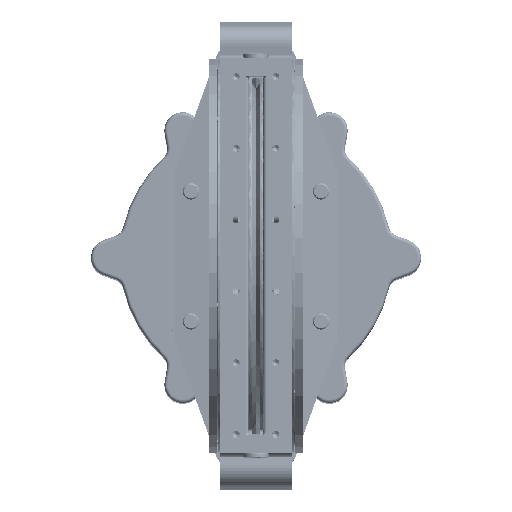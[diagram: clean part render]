
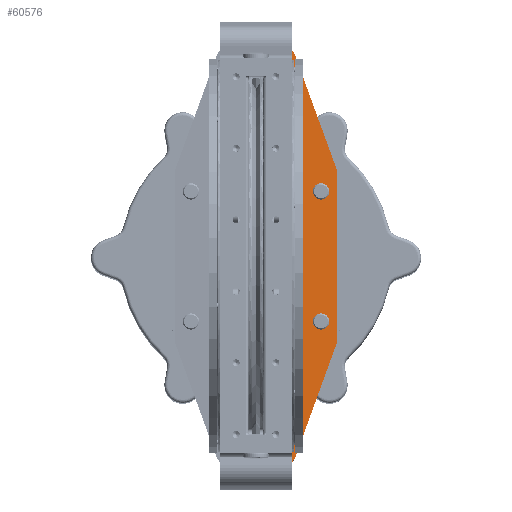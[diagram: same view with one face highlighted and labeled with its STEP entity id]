
A CAD part, top view. The second image highlights one B-rep face of the part: STEP entity #60576.
In plain terms, the highlighted planar face has unit normal (0.07, 0, 0.998).
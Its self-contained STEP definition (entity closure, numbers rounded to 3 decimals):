
#154=ELLIPSE('',#66782,48.117,48.);
#155=ELLIPSE('',#66784,48.117,48.);
#156=ELLIPSE('',#66785,25.061,25.);
#157=ELLIPSE('',#66786,25.061,25.);
#158=ELLIPSE('',#66787,25.061,25.);
#159=ELLIPSE('',#66788,25.061,25.);
#160=ELLIPSE('',#66789,10.024,10.);
#161=ELLIPSE('',#66790,10.024,10.);
#162=ELLIPSE('',#66791,10.024,10.);
#163=ELLIPSE('',#66792,10.024,10.);
#1478=B_SPLINE_CURVE_WITH_KNOTS('',3,(#149868,#149869,#149870,#149871,#149872,
#149873),.UNSPECIFIED.,.F.,.F.,(4,2,4),(27.716,27.741,
27.771),.UNSPECIFIED.);
#1480=B_SPLINE_CURVE_WITH_KNOTS('',3,(#150177,#150178,#150179,#150180,#150181,
#150182),.UNSPECIFIED.,.F.,.F.,(4,2,4),(-11.533,-11.508,
-11.478),.UNSPECIFIED.);
#3088=FACE_BOUND('',#10815,.T.);
#3089=FACE_BOUND('',#10816,.T.);
#4122=PLANE('',#66783);
#7027=FACE_OUTER_BOUND('',#10814,.T.);
#10814=EDGE_LOOP('',(#48625,#48626,#48627,#48628,#48629,#48630,#48631,#48632,
#48633,#48634,#48635,#48636,#48637,#48638));
#10815=EDGE_LOOP('',(#48639,#48640));
#10816=EDGE_LOOP('',(#48641,#48642));
#14261=LINE('',#146405,#17435);
#14291=LINE('',#150185,#17465);
#14292=LINE('',#150189,#17466);
#14293=LINE('',#150193,#17467);
#14294=LINE('',#150197,#17468);
#14295=LINE('',#150200,#17469);
#17435=VECTOR('',#80941,1.);
#17465=VECTOR('',#81099,1.);
#17466=VECTOR('',#81102,1.);
#17467=VECTOR('',#81105,1.);
#17468=VECTOR('',#81108,1.);
#17469=VECTOR('',#81111,1.);
#26443=VERTEX_POINT('',#146393);
#26444=VERTEX_POINT('',#146404);
#26518=VERTEX_POINT('',#149865);
#26519=VERTEX_POINT('',#149867);
#26520=VERTEX_POINT('',#150175);
#26521=VERTEX_POINT('',#150176);
#26522=VERTEX_POINT('',#150184);
#26523=VERTEX_POINT('',#150186);
#26524=VERTEX_POINT('',#150188);
#26525=VERTEX_POINT('',#150190);
#26526=VERTEX_POINT('',#150192);
#26527=VERTEX_POINT('',#150194);
#26528=VERTEX_POINT('',#150196);
#26529=VERTEX_POINT('',#150198);
#26530=VERTEX_POINT('',#150201);
#26531=VERTEX_POINT('',#150202);
#26532=VERTEX_POINT('',#150205);
#26533=VERTEX_POINT('',#150206);
#34205=EDGE_CURVE('',#26444,#26443,#14261,.T.);
#34314=EDGE_CURVE('',#26519,#26518,#1478,.T.);
#34316=EDGE_CURVE('',#26443,#26519,#154,.T.);
#34317=EDGE_CURVE('',#26520,#26521,#1480,.F.);
#34318=EDGE_CURVE('',#26521,#26444,#155,.T.);
#34319=EDGE_CURVE('',#26522,#26518,#14291,.F.);
#34320=EDGE_CURVE('',#26522,#26523,#156,.T.);
#34321=EDGE_CURVE('',#26523,#26524,#14292,.F.);
#34322=EDGE_CURVE('',#26524,#26525,#157,.T.);
#34323=EDGE_CURVE('',#26525,#26526,#14293,.F.);
#34324=EDGE_CURVE('',#26526,#26527,#158,.T.);
#34325=EDGE_CURVE('',#26527,#26528,#14294,.F.);
#34326=EDGE_CURVE('',#26528,#26529,#159,.T.);
#34327=EDGE_CURVE('',#26520,#26529,#14295,.F.);
#34328=EDGE_CURVE('',#26530,#26531,#160,.T.);
#34329=EDGE_CURVE('',#26531,#26530,#161,.T.);
#34330=EDGE_CURVE('',#26532,#26533,#162,.T.);
#34331=EDGE_CURVE('',#26533,#26532,#163,.T.);
#48625=ORIENTED_EDGE('',*,*,#34317,.T.);
#48626=ORIENTED_EDGE('',*,*,#34318,.T.);
#48627=ORIENTED_EDGE('',*,*,#34205,.T.);
#48628=ORIENTED_EDGE('',*,*,#34316,.T.);
#48629=ORIENTED_EDGE('',*,*,#34314,.T.);
#48630=ORIENTED_EDGE('',*,*,#34319,.F.);
#48631=ORIENTED_EDGE('',*,*,#34320,.T.);
#48632=ORIENTED_EDGE('',*,*,#34321,.T.);
#48633=ORIENTED_EDGE('',*,*,#34322,.T.);
#48634=ORIENTED_EDGE('',*,*,#34323,.T.);
#48635=ORIENTED_EDGE('',*,*,#34324,.T.);
#48636=ORIENTED_EDGE('',*,*,#34325,.T.);
#48637=ORIENTED_EDGE('',*,*,#34326,.T.);
#48638=ORIENTED_EDGE('',*,*,#34327,.F.);
#48639=ORIENTED_EDGE('',*,*,#34328,.T.);
#48640=ORIENTED_EDGE('',*,*,#34329,.T.);
#48641=ORIENTED_EDGE('',*,*,#34330,.T.);
#48642=ORIENTED_EDGE('',*,*,#34331,.T.);
#60576=ADVANCED_FACE('',(#7027,#3088,#3089),#4122,.T.);
#66782=AXIS2_PLACEMENT_3D('',#150173,#81093,#81094);
#66783=AXIS2_PLACEMENT_3D('',#150174,#81095,#81096);
#66784=AXIS2_PLACEMENT_3D('',#150183,#81097,#81098);
#66785=AXIS2_PLACEMENT_3D('',#150187,#81100,#81101);
#66786=AXIS2_PLACEMENT_3D('',#150191,#81103,#81104);
#66787=AXIS2_PLACEMENT_3D('',#150195,#81106,#81107);
#66788=AXIS2_PLACEMENT_3D('',#150199,#81109,#81110);
#66789=AXIS2_PLACEMENT_3D('',#150203,#81112,#81113);
#66790=AXIS2_PLACEMENT_3D('',#150204,#81114,#81115);
#66791=AXIS2_PLACEMENT_3D('',#150207,#81116,#81117);
#66792=AXIS2_PLACEMENT_3D('',#150208,#81118,#81119);
#80941=DIRECTION('',(0.,-1.,0.));
#81093=DIRECTION('center_axis',(-0.07,0.,-0.998));
#81094=DIRECTION('ref_axis',(-0.998,0.,0.07));
#81095=DIRECTION('center_axis',(0.07,0.,0.998));
#81096=DIRECTION('ref_axis',(-0.998,0.,0.07));
#81097=DIRECTION('center_axis',(-0.07,0.,-0.998));
#81098=DIRECTION('ref_axis',(-0.998,0.,0.07));
#81099=DIRECTION('',(0.,-1.,0.));
#81100=DIRECTION('center_axis',(0.07,0.,0.998));
#81101=DIRECTION('ref_axis',(-0.998,0.,0.07));
#81102=DIRECTION('',(-0.342,-0.939,0.024));
#81103=DIRECTION('center_axis',(0.07,0.,0.998));
#81104=DIRECTION('ref_axis',(0.998,0.,-0.07));
#81105=DIRECTION('',(0.,-1.,0.));
#81106=DIRECTION('center_axis',(0.07,0.,0.998));
#81107=DIRECTION('ref_axis',(-0.998,0.,0.07));
#81108=DIRECTION('',(0.342,-0.939,-0.024));
#81109=DIRECTION('center_axis',(0.07,0.,0.998));
#81110=DIRECTION('ref_axis',(0.998,0.,-0.07));
#81111=DIRECTION('',(0.,-1.,0.));
#81112=DIRECTION('center_axis',(-0.07,0.,-0.998));
#81113=DIRECTION('ref_axis',(0.998,0.,-0.07));
#81114=DIRECTION('center_axis',(-0.07,0.,-0.998));
#81115=DIRECTION('ref_axis',(0.998,0.,-0.07));
#81116=DIRECTION('center_axis',(-0.07,0.,-0.998));
#81117=DIRECTION('ref_axis',(0.998,0.,-0.07));
#81118=DIRECTION('center_axis',(-0.07,0.,-0.998));
#81119=DIRECTION('ref_axis',(0.998,0.,-0.07));
#146393=CARTESIAN_POINT('',(50.454,-215.,-312.035));
#146404=CARTESIAN_POINT('',(50.454,215.,-312.035));
#146405=CARTESIAN_POINT('',(50.454,-499637.5,-312.035));
#149865=CARTESIAN_POINT('',(28.497,-255.978,-310.5));
#149867=CARTESIAN_POINT('',(28.349,-255.416,-310.49));
#149868=CARTESIAN_POINT('Ctrl Pts',(28.349,-255.416,
-310.49));
#149869=CARTESIAN_POINT('Ctrl Pts',(28.394,-255.487,
-310.493));
#149870=CARTESIAN_POINT('Ctrl Pts',(28.433,-255.579,
-310.496));
#149871=CARTESIAN_POINT('Ctrl Pts',(28.483,-255.756,
-310.499));
#149872=CARTESIAN_POINT('Ctrl Pts',(28.497,-255.877,
-310.5));
#149873=CARTESIAN_POINT('Ctrl Pts',(28.497,-255.978,
-310.5));
#150173=CARTESIAN_POINT('Origin',(2.454,-215.,-308.679));
#150174=CARTESIAN_POINT('Origin',(28.497,-499637.5,-310.5));
#150175=CARTESIAN_POINT('',(28.497,255.978,-310.5));
#150176=CARTESIAN_POINT('',(28.349,255.416,-310.49));
#150177=CARTESIAN_POINT('Ctrl Pts',(28.349,255.416,-310.49));
#150178=CARTESIAN_POINT('Ctrl Pts',(28.394,255.487,-310.493));
#150179=CARTESIAN_POINT('Ctrl Pts',(28.433,255.579,-310.496));
#150180=CARTESIAN_POINT('Ctrl Pts',(28.483,255.756,-310.499));
#150181=CARTESIAN_POINT('Ctrl Pts',(28.497,255.877,-310.5));
#150182=CARTESIAN_POINT('Ctrl Pts',(28.497,255.978,-310.5));
#150183=CARTESIAN_POINT('Origin',(2.454,215.,-308.679));
#150184=CARTESIAN_POINT('',(28.497,-262.278,-310.5));
#150185=CARTESIAN_POINT('',(28.497,262.5,-310.5));
#150186=CARTESIAN_POINT('',(48.662,-246.051,-311.91));
#150187=CARTESIAN_POINT('Origin',(25.169,-237.5,-310.267));
#150188=CARTESIAN_POINT('',(98.492,-109.142,-315.395));
#150189=CARTESIAN_POINT('',(-160363.272,-440974.217,10905.185));
#150190=CARTESIAN_POINT('',(100.,-100.592,-315.5));
#150191=CARTESIAN_POINT('Origin',(75.,-100.592,-313.752));
#150192=CARTESIAN_POINT('',(100.,100.592,-315.5));
#150193=CARTESIAN_POINT('',(100.,-499637.5,-315.5));
#150194=CARTESIAN_POINT('',(98.492,109.142,-315.395));
#150195=CARTESIAN_POINT('Origin',(75.,100.592,-313.752));
#150196=CARTESIAN_POINT('',(48.662,246.051,-311.91));
#150197=CARTESIAN_POINT('',(160613.925,-440903.386,-11539.727));
#150198=CARTESIAN_POINT('',(28.497,262.278,-310.5));
#150199=CARTESIAN_POINT('Origin',(25.169,237.5,-310.267));
#150200=CARTESIAN_POINT('',(28.497,262.5,-310.5));
#150201=CARTESIAN_POINT('',(70.,-80.,-313.402));
#150202=CARTESIAN_POINT('',(74.39,-71.722,-313.709));
#150203=CARTESIAN_POINT('Origin',(80.,-80.,-314.101));
#150204=CARTESIAN_POINT('Origin',(80.,-80.,-314.101));
#150205=CARTESIAN_POINT('',(70.,80.,-313.402));
#150206=CARTESIAN_POINT('',(74.39,88.278,-313.709));
#150207=CARTESIAN_POINT('Origin',(80.,80.,-314.101));
#150208=CARTESIAN_POINT('Origin',(80.,80.,-314.101));
